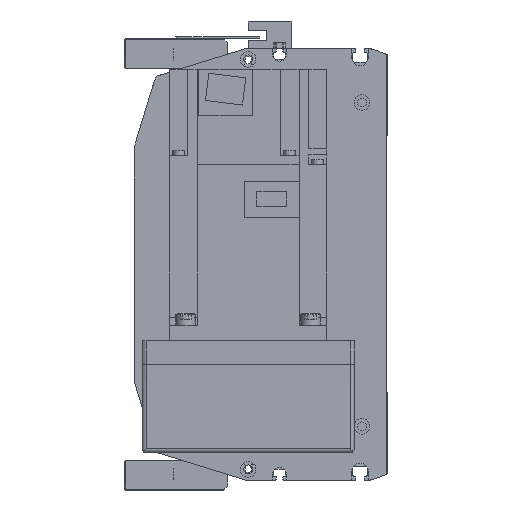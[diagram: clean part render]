
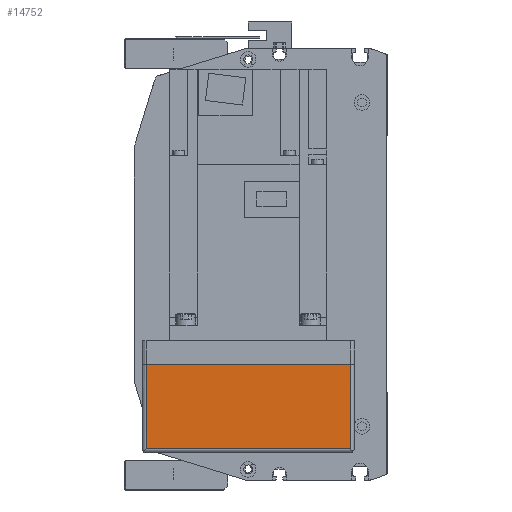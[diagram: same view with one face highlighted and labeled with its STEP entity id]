
A CAD part, left-side view. The second image highlights one B-rep face of the part: STEP entity #14752.
In plain terms, the highlighted planar face has unit normal (-1, 0, 0).
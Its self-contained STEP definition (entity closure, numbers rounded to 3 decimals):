
#2504=ORIENTED_EDGE('',*,*,#6008,.T.);
#2505=ORIENTED_EDGE('',*,*,#5936,.T.);
#2506=ORIENTED_EDGE('',*,*,#6009,.F.);
#2507=ORIENTED_EDGE('',*,*,#5948,.F.);
#5936=EDGE_CURVE('',#7834,#7837,#9364,.T.);
#5948=EDGE_CURVE('',#7844,#7846,#9369,.T.);
#6008=EDGE_CURVE('',#7844,#7834,#9411,.T.);
#6009=EDGE_CURVE('',#7846,#7837,#9412,.T.);
#7834=VERTEX_POINT('',#22939);
#7837=VERTEX_POINT('',#22945);
#7844=VERTEX_POINT('',#22968);
#7846=VERTEX_POINT('',#22971);
#9364=LINE('',#22946,#10713);
#9369=LINE('',#22970,#10718);
#9411=LINE('',#23094,#10760);
#9412=LINE('',#23095,#10761);
#10713=VECTOR('',#18319,1000.);
#10718=VECTOR('',#18346,1000.);
#10760=VECTOR('',#18466,1000.);
#10761=VECTOR('',#18467,1000.);
#11919=EDGE_LOOP('',(#2504,#2505,#2506,#2507));
#13100=FACE_BOUND('',#11919,.T.);
#14119=PLANE('',#15841);
#14752=ADVANCED_FACE('',(#13100),#14119,.T.);
#15841=AXIS2_PLACEMENT_3D('',#23093,#18464,#18465);
#18319=DIRECTION('',(0.,0.,1.));
#18346=DIRECTION('',(0.,0.,1.));
#18464=DIRECTION('',(-1.,0.,0.));
#18465=DIRECTION('',(0.,0.,1.));
#18466=DIRECTION('',(0.,-1.,0.));
#18467=DIRECTION('',(0.,-1.,0.));
#22939=CARTESIAN_POINT('',(-230.,-52.,-55.));
#22945=CARTESIAN_POINT('',(-230.,-52.,-12.));
#22946=CARTESIAN_POINT('',(-230.,-52.,-57.));
#22968=CARTESIAN_POINT('',(-230.,52.,-55.));
#22970=CARTESIAN_POINT('',(-230.,52.,-57.));
#22971=CARTESIAN_POINT('',(-230.,52.,-12.));
#23093=CARTESIAN_POINT('',(-230.,52.,-57.));
#23094=CARTESIAN_POINT('',(-230.,54.,-55.));
#23095=CARTESIAN_POINT('',(-230.,52.,-12.));
